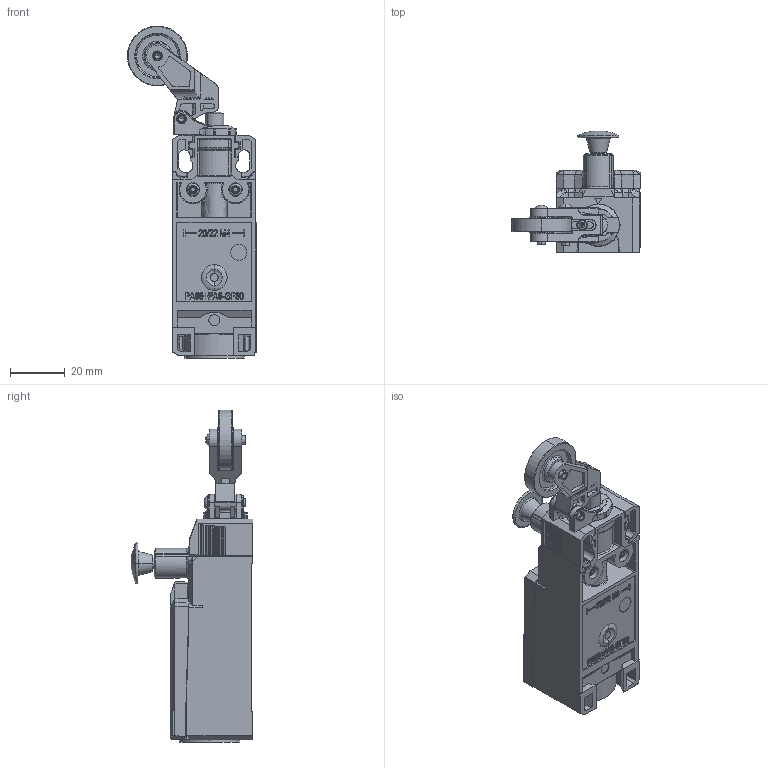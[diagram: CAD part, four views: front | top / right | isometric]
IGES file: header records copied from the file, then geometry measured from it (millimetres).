
Start section:  PTC IGES file: I81-DGKK.igs
Global section: file name: I81-DGKK.igs; native system: Creo Parametric by Parametric Technology Corporation; preprocessor: 2012360; author: Yvonne.Storm; organization: Unknown; date: 20170207.104452; units: millimetre
Bounding box: 47.37 x 44.53 x 121.85 mm (x, y, z)
Volume: 36553.2 mm3; surface area: 32903.5 mm2
Topology: 3 solids, 4 shells, 2372 faces, 6424 edges, 4082 vertices
Faces by surface type: bspline 1285, revolution 834, extrusion 253
